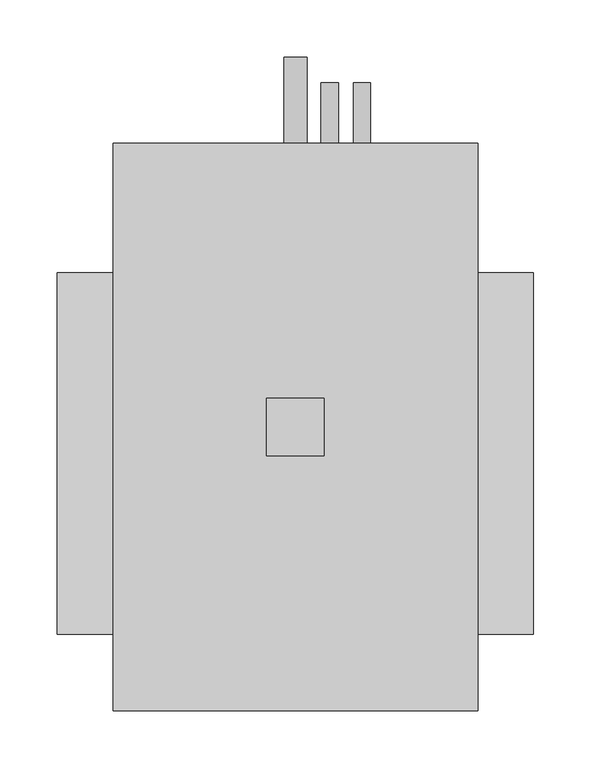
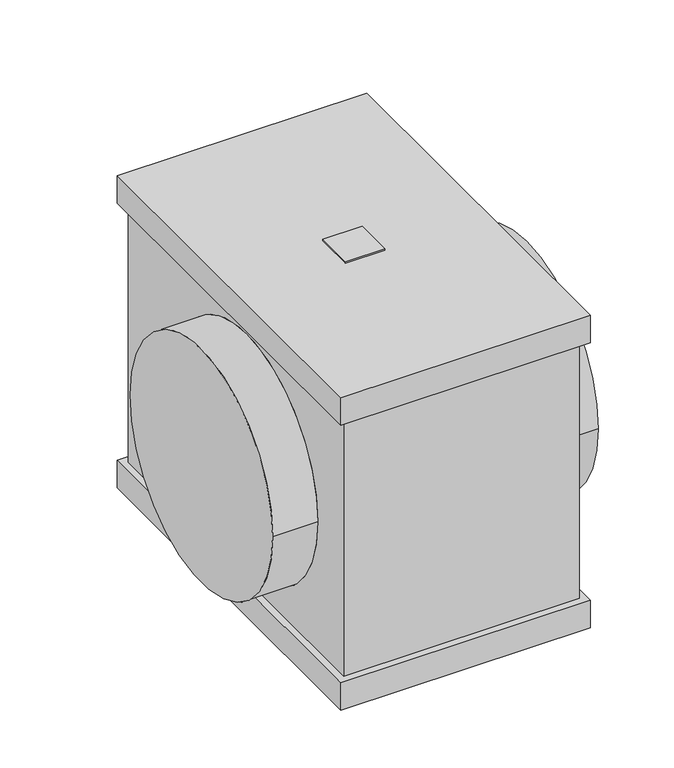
"""IFC4 building model written with IfcOpenShell, lengths in millimetres: proxy geometry, KORF_Охладитель_Водяной_Круглый_Правый_KWLO : KWLO 315/2."""

from ifc_helpers import new_model, si_unit, point, frame, frame_2d, origin, place, context, project, spatial, polyline, circle_curve, trimmed, segment, composite_curve, outline, extrude, source, transform, mapped, element, save
from ifc_brep_helpers import plane_surface, cylinder_surface, advanced_brep


def mechanical_equipment_e90fcd9d(model_context):
    return source(origin(), model_context, "Body", "SolidModel", [
        extrude(outline(polyline([(232.5, 48.0), (232.5, -2.0), (182.5, -2.0), (182.5, 48.0), (232.5, 48.0)])), frame((0.0, 0.0, 210.5), z_axis=(0.0, 0.0, 1.0), x_axis=(1.0, 0.0, 0.0)), (0.0, 0.0, 1.0), 2.0),
        advanced_brep(
        [(415.0, -157.5, 0.0), (415.0, 157.5, 0.0), (0.0, -157.5, 0.0), (0.0, 157.5, 0.0), (357.5, -157.5, 0.0), (357.5, 157.5, 0.0), (57.5, 157.5, 0.0), (57.5, -157.5, 0.0), (357.5, -215.0, -173.5), (357.5, 261.0, -173.5), (357.5, 261.0, 173.5), (357.5, -215.0, 173.5), (57.5, 261.0, -173.5), (57.5, -215.0, -173.5), (57.5, -215.0, 173.5), (57.5, 261.0, 173.5), (366.5, 270.0, -210.5), (366.5, -224.0, -210.5), (48.5, -224.0, -210.5), (48.5, 270.0, -210.5), (366.5, -224.0, 210.5), (366.5, 270.0, 210.5), (48.5, 270.0, 210.5), (48.5, -224.0, 210.5), (366.5, 270.0, -173.5), (366.5, -224.0, -173.5), (48.5, -224.0, -173.5), (48.5, 270.0, -173.5), (366.5, 270.0, 173.5), (366.5, -224.0, 173.5), (48.5, -224.0, 173.5), (48.5, 270.0, 173.5)],
        [
            (0, 1, circle_curve(frame((415.0, 0.0, 0.0), z_axis=(1.0, 0.0, 0.0), x_axis=(0.0, 1.0, 0.0)), 157.5)),
            (1, 0, circle_curve(frame((415.0, 0.0, 0.0), z_axis=(1.0, 0.0, 0.0), x_axis=(0.0, 1.0, 0.0)), 157.5)),
            (2, 3, circle_curve(frame((0.0, 0.0, 0.0), z_axis=(-1.0, 0.0, 0.0), x_axis=(0.0, 1.0, 0.0)), 157.5)),
            (3, 2, circle_curve(frame((0.0, 0.0, 0.0), z_axis=(-1.0, 0.0, 0.0), x_axis=(0.0, 1.0, 0.0)), 157.5)),
            (0, 4),
            (4, 5, circle_curve(frame((357.5, 0.0, 0.0), z_axis=(1.0, 0.0, 0.0), x_axis=(0.0, 1.0, 0.0)), 157.5)),
            (5, 1),
            (3, 6),
            (6, 7, circle_curve(frame((57.5, 0.0, 0.0), z_axis=(-1.0, 0.0, 0.0), x_axis=(0.0, 1.0, 0.0)), 157.5)),
            (7, 2),
            (5, 4, circle_curve(frame((357.5, 0.0, 0.0), z_axis=(1.0, 0.0, 0.0), x_axis=(0.0, 1.0, 0.0)), 157.5)),
            (7, 6, circle_curve(frame((57.5, 0.0, 0.0), z_axis=(-1.0, 0.0, 0.0), x_axis=(0.0, 1.0, 0.0)), 157.5)),
            (8, 9),
            (9, 10),
            (10, 11),
            (11, 8),
            (12, 13),
            (13, 14),
            (14, 15),
            (15, 12),
            (13, 8),
            (11, 14),
            (16, 17),
            (17, 18),
            (18, 19),
            (19, 16),
            (9, 12),
            (15, 10),
            (20, 21),
            (21, 22),
            (22, 23),
            (23, 20),
            (16, 24),
            (24, 25),
            (25, 17),
            (25, 26),
            (26, 18),
            (26, 27),
            (27, 19),
            (24, 27),
            (28, 21),
            (20, 29),
            (29, 28),
            (23, 30),
            (30, 29),
            (22, 31),
            (31, 30),
            (28, 31),
        ],
        [
            plane_surface(frame((415.0, 157.5, 0.0), z_axis=(1.0, 0.0, 0.0), x_axis=(0.0, 0.0, 1.0))),
            plane_surface(frame((0.0, 157.5, 0.0), z_axis=(-1.0, 0.0, 0.0), x_axis=(0.0, 0.0, -1.0))),
            cylinder_surface(frame((0.0, 0.0, 0.0), z_axis=(1.0, 0.0, 0.0), x_axis=(0.0, 1.0, 0.0)), 157.5),
            plane_surface(frame((357.5, -215.0, 210.5), z_axis=(1.0, 0.0, 0.0), x_axis=(0.0, 0.0, -1.0))),
            plane_surface(frame((57.5, -215.0, 210.5), z_axis=(-1.0, 0.0, 0.0), x_axis=(0.0, 0.0, 1.0))),
            plane_surface(frame((357.5, -215.0, 210.5), z_axis=(0.0, -1.0, 0.0), x_axis=(-1.0, 0.0, 0.0))),
            plane_surface(frame((357.5, -215.0, -210.5), z_axis=(0.0, 0.0, -1.0), x_axis=(-1.0, 0.0, 0.0))),
            plane_surface(frame((357.5, 261.0, -210.5), z_axis=(0.0, 1.0, 0.0), x_axis=(-1.0, 0.0, 0.0))),
            plane_surface(frame((357.5, 261.0, 210.5), z_axis=(0.0, 0.0, 1.0), x_axis=(-1.0, 0.0, 0.0))),
            plane_surface(frame((366.5, 270.0, -173.5), z_axis=(1.0, 0.0, 0.0), x_axis=(0.0, -1.0, 0.0))),
            plane_surface(frame((366.5, -224.0, -173.5), z_axis=(0.0, -1.0, 0.0), x_axis=(-1.0, 0.0, 0.0))),
            plane_surface(frame((48.5, -224.0, -173.5), z_axis=(-1.0, 0.0, 0.0), x_axis=(0.0, 1.0, 0.0))),
            plane_surface(frame((57.5, 261.0, -173.5), z_axis=(0.0, 0.0, 1.0), x_axis=(1.0, 0.0, 0.0))),
            plane_surface(frame((48.5, 270.0, -173.5), z_axis=(0.0, 1.0, 0.0), x_axis=(1.0, 0.0, 0.0))),
            plane_surface(frame((366.5, 270.0, 210.5), z_axis=(1.0, 0.0, 0.0), x_axis=(0.0, -1.0, 0.0))),
            plane_surface(frame((366.5, -224.0, 210.5), z_axis=(0.0, -1.0, 0.0), x_axis=(-1.0, 0.0, 0.0))),
            plane_surface(frame((48.5, -224.0, 210.5), z_axis=(-1.0, 0.0, 0.0), x_axis=(0.0, 1.0, 0.0))),
            plane_surface(frame((48.5, 270.0, 210.5), z_axis=(0.0, 1.0, 0.0), x_axis=(1.0, 0.0, 0.0))),
            plane_surface(frame((48.5, 270.0, 173.5), z_axis=(0.0, 0.0, -1.0), x_axis=(1.0, 0.0, 0.0))),
        ],
        [
            (0, [[1, 2]]),
            (1, [[3, 4]]),
            (2, [[-1, 5, 6, 7]]),
            (2, [[-4, 8, 9, 10]]),
            (2, [[-2, -7, 11, -5]]),
            (2, [[-3, -10, 12, -8]]),
            (3, [[13, 14, 15, 16], [-6, -11]]),
            (4, [[17, 18, 19, 20], [-9, -12]]),
            (5, [[21, -16, 22, -18]]),
            (6, [[23, 24, 25, 26]]),
            (7, [[27, -20, 28, -14]]),
            (8, [[29, 30, 31, 32]]),
            (9, [[33, 34, 35, -23]]),
            (10, [[-35, 36, 37, -24]]),
            (11, [[-37, 38, 39, -25]]),
            (12, [[-34, 40, -38, -36], [-13, -21, -17, -27]]),
            (13, [[-33, -26, -39, -40]]),
            (14, [[41, -29, 42, 43]]),
            (15, [[-42, -32, 44, 45]]),
            (16, [[-44, -31, 46, 47]]),
            (17, [[-41, 48, -46, -30]]),
            (18, [[-43, -45, -47, -48], [-15, -28, -19, -22]]),
        ],
    ),
        extrude(outline(composite_curve([segment(trimmed(circle_curve(frame_2d((-156.5, 237.5)), 7.5), [point((-156.5, 230.0))], [point((-156.5, 245.0))], False, "CARTESIAN"), True, "CONTINUOUS"), segment(trimmed(circle_curve(frame_2d((-156.5, 237.5)), 7.5), [point((-156.5, 245.0))], [point((-156.5, 230.0))], False, "CARTESIAN"), True, "CONTINUOUS")], self_intersect=False)), frame((0.0, 261.0, 0.0), z_axis=(0.0, 1.0, 0.0), x_axis=(0.0, 0.0, 1.0)), (0.0, 0.0, 1.0), 62.0),
        extrude(outline(composite_curve([segment(trimmed(circle_curve(frame_2d((156.5, 265.5)), 7.5), [point((156.5, 258.0))], [point((156.5, 273.0))], False, "CARTESIAN"), True, "CONTINUOUS"), segment(trimmed(circle_curve(frame_2d((156.5, 265.5)), 7.5), [point((156.5, 273.0))], [point((156.5, 258.0))], False, "CARTESIAN"), True, "CONTINUOUS")], self_intersect=False)), frame((0.0, 261.0, 0.0), z_axis=(0.0, 1.0, 0.0), x_axis=(0.0, 0.0, 1.0)), (0.0, 0.0, 1.0), 62.0),
        extrude(outline(composite_curve([segment(trimmed(circle_curve(frame_2d((-191.5, 207.5)), 10.0), [point((-191.5, 197.5))], [point((-191.5, 217.5))], False, "CARTESIAN"), True, "CONTINUOUS"), segment(trimmed(circle_curve(frame_2d((-191.5, 207.5)), 10.0), [point((-191.5, 217.5))], [point((-191.5, 197.5))], False, "CARTESIAN"), True, "CONTINUOUS")], self_intersect=False)), frame((0.0, 270.0, 0.0), z_axis=(0.0, 1.0, 0.0), x_axis=(0.0, 0.0, 1.0)), (0.0, 0.0, 1.0), 75.0),
    ])


if __name__ == "__main__":
    model = new_model("IFC4")
    model_context = context("Model", 3, world=origin())
    ifc_project = project(units=[si_unit("LENGTHUNIT", "METRE", prefix="MILLI")], contexts=[model_context])
    site = spatial("IfcSite", under=ifc_project)
    building = spatial("IfcBuilding", under=site)
    placement = place(None, origin())
    mechanical_equipment_shape = mechanical_equipment_e90fcd9d(model_context)
    element("IfcBuildingElementProxy", 1, Name="KORF_Охладитель_Водяной_Круглый_Правый_KWLO : KWLO 315/2", ObjectType="KORF_Охладитель_Водяной_Круглый_Правый_KWLO : KWLO 315/2", at=placement, inside=building, context=model_context, shape_type="MappedRepresentation", body=[
        mapped(mechanical_equipment_shape, transform((0.0, 0.0, 0.0), x_axis=(1.0, 0.0, 0.0), y_axis=(0.0, 1.0, 0.0), z_axis=(0.0, 0.0, 1.0))),
    ])
    save(model, "model.ifc")
